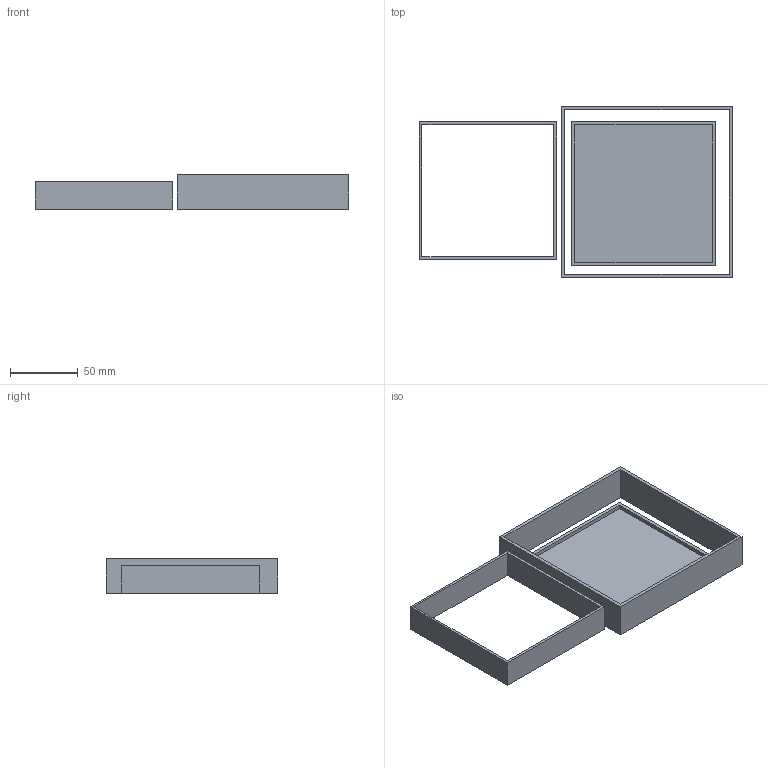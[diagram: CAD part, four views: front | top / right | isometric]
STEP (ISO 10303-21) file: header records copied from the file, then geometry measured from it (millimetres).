
FILE_DESCRIPTION(/* description */ (''),/* implementation_level */ '2;1');
FILE_NAME(/* name */ 'Mold frames',/* time_stamp */ '2025-12-23T14:25:17-05:00',/* author */ (''),/* organization */ (''),/* preprocessor_version */ 'ST-DEVELOPER v19.2',/* originating_system */ 'Rhino 8.14',/* authorisation */ '');
FILE_SCHEMA (('CONFIG_CONTROL_DESIGN'));
Length unit declared in the file: inch
Products named in the file (1): Document
Bounding box: 231.88 x 127 x 25.4 mm (x, y, z)
Volume: 74888.6 mm3; surface area: 71791.8 mm2
Topology: 3 solids, 3 shells, 40 faces, 93 edges, 60 vertices
Faces by surface type: plane 40
Entity records: 1068 total; most frequent: CARTESIAN_POINT 288, ORIENTED_EDGE 186, EDGE_CURVE 93, B_SPLINE_CURVE_WITH_KNOTS 93, VERTEX_POINT 60, EDGE_LOOP 45, DIRECTION 44, AXIS2_PLACEMENT_3D 42
